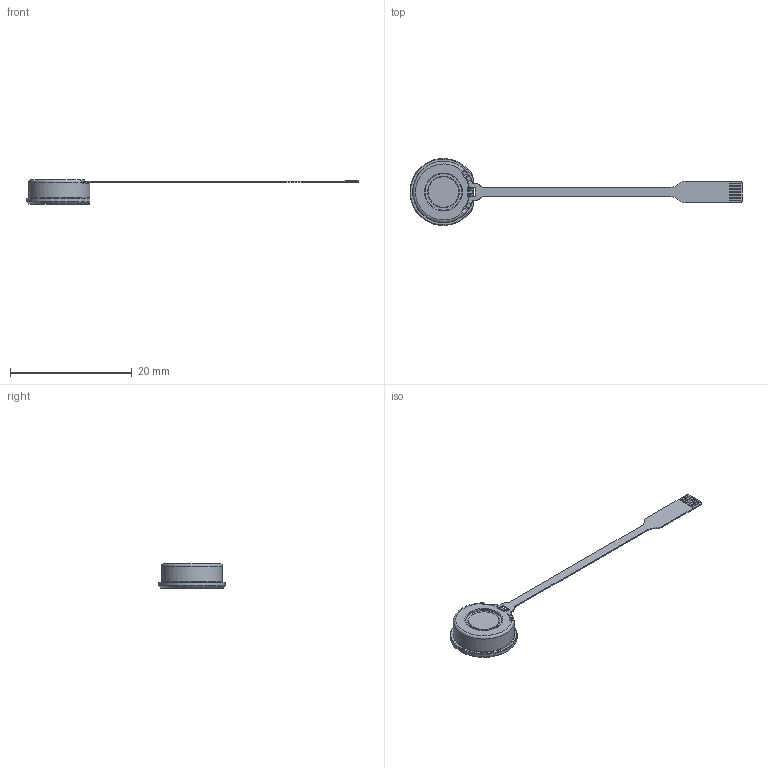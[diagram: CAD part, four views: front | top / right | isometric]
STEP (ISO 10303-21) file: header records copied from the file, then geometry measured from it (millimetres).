
FILE_DESCRIPTION (( 'STEP AP203' ), '1' );
FILE_NAME ('137-768-XX_Rev-0-00.step', '2018-04-10T07:22:37', ( '' ), ( '' ), 'SwSTEP 2.0', 'SolidWorks 2017', '' );
FILE_SCHEMA (( 'CONFIG_CONTROL_DESIGN' ));
Length unit declared in the file: millimetre
Products named in the file (24): 136-990-20; 137-766-XX_70 optical Layout; 135-885-00_70; 135-979-01_ConnectingElement; 137-768-XX_Rev-0-00; 800-017-00_01; 800-051-00_01; 137-094-00; 136-685-00_02; Defeature^137-765-XX; 136-298-03_70 optical layout; 137-026-XX_01; 137-764-XX_01; Membrane^137-764-XX_01; 800-037-00_01; 134-669-03_Moulded2; 134-674-03_70-Optical Layout; 136-420-XX; Part1^137-765-XX; 136-990-10; 137-765-XX_70-Optical Layout; OL-Volume^137-764-XX; 136-990-00_02_Bienewabe; 136-673-00
Assembly tree (20 placements, depth 7):
  137-768-XX_Rev-0-00
    137-766-XX_70 optical Layout
      137-765-XX_70-Optical Layout
        134-674-03_70-Optical Layout
          135-885-00_70
            136-685-00_02
          136-298-03_70 optical layout
            134-669-03_Moulded2
          136-673-00
        Defeature^137-765-XX
        137-764-XX_01
          136-990-20
            136-990-10
              136-990-00_02_Bienewabe
          137-026-XX_01
          135-979-01_ConnectingElement
          OL-Volume^137-764-XX
          Membrane^137-764-XX_01
        Part1^137-765-XX
    137-094-00
    136-420-XX
  800-017-00_01
  800-051-00_01
  800-037-00_01
Bounding box: 54.44 x 10.96 x 4 mm (x, y, z)
Volume: 323.5 mm3; surface area: 1244.9 mm2
Topology: 26 solids, 26 shells, 472 faces, 1207 edges, 797 vertices
Faces by surface type: plane 301, cylinder 90, cone 60, torus 21
Full cylindrical faces by diameter (mm): 3 x1, 3.1 x1, 3.5 x1, 4.4 x2, 5 x3, 5.1 x1, 5.4 x1, 5.6 x1, 6 x2, 8.1 x1, 9.3 x3, 10 x1
Entity records: 16835 total; most frequent: CARTESIAN_POINT 2844, DIRECTION 2448, ORIENTED_EDGE 2328, EDGE_CURVE 1164, AXIS2_PLACEMENT_3D 833, VERTEX_POINT 789, LINE 782, VECTOR 782
